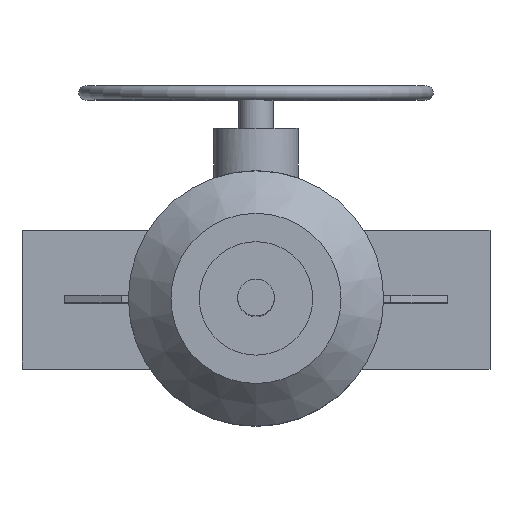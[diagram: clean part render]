
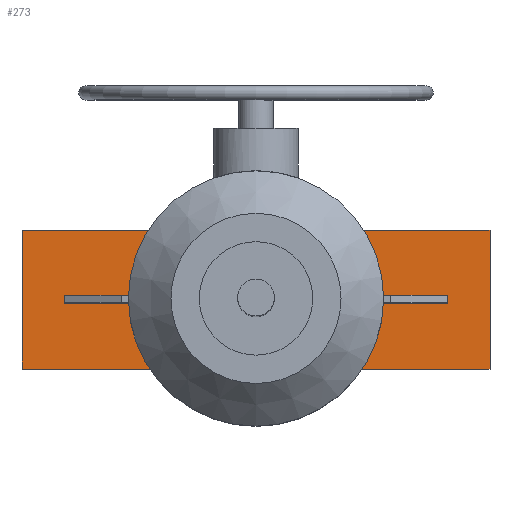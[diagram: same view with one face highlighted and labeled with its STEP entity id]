
A CAD part, top view. The second image highlights one B-rep face of the part: STEP entity #273.
In plain terms, the highlighted planar face has unit normal (0, 0, 1).
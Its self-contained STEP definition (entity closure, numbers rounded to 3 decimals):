
#273=ADVANCED_FACE('',(#1540,#1542),#1544,.T.);
#1540=FACE_BOUND('',#1541,.T.);
#1541=EDGE_LOOP('',(#2601,#2602,#2603,#2604,#2605,#2606,#2607,#2608));
#1542=FACE_BOUND('',#1543,.T.);
#1543=EDGE_LOOP('',(#2609,#2610,#2611,#2612,#2613,#2614,#2615,#2616));
#1544=PLANE('',#1545);
#1545=AXIS2_PLACEMENT_3D('',#1546,#1547,#1548);
#1546=CARTESIAN_POINT('',(0.,0.,280.));
#1547=DIRECTION('',(0.,0.,1.));
#1548=DIRECTION('',(1.,0.,0.));
#2601=ORIENTED_EDGE('',*,*,#3217,.F.);
#2602=ORIENTED_EDGE('',*,*,#3215,.T.);
#2603=ORIENTED_EDGE('',*,*,#3228,.T.);
#2604=ORIENTED_EDGE('',*,*,#3221,.T.);
#2605=ORIENTED_EDGE('',*,*,#3220,.F.);
#2606=ORIENTED_EDGE('',*,*,#3225,.T.);
#2607=ORIENTED_EDGE('',*,*,#3229,.T.);
#2608=ORIENTED_EDGE('',*,*,#3211,.T.);
#2609=ORIENTED_EDGE('',*,*,#3230,.F.);
#2610=ORIENTED_EDGE('',*,*,#3231,.F.);
#2611=ORIENTED_EDGE('',*,*,#3232,.F.);
#2612=ORIENTED_EDGE('',*,*,#3233,.F.);
#2613=ORIENTED_EDGE('',*,*,#3234,.F.);
#2614=ORIENTED_EDGE('',*,*,#3235,.F.);
#2615=ORIENTED_EDGE('',*,*,#3236,.F.);
#2616=ORIENTED_EDGE('',*,*,#3237,.F.);
#3211=EDGE_CURVE('',#3582,#3565,#3583,.T.);
#3215=EDGE_CURVE('',#3545,#3588,#3590,.T.);
#3217=EDGE_CURVE('',#3545,#3565,#3592,.T.);
#3220=EDGE_CURVE('',#3559,#3551,#3596,.T.);
#3221=EDGE_CURVE('',#3597,#3551,#3598,.T.);
#3225=EDGE_CURVE('',#3559,#3603,#3605,.T.);
#3228=EDGE_CURVE('',#3588,#3597,#3610,.T.);
#3229=EDGE_CURVE('',#3603,#3582,#3611,.T.);
#3230=EDGE_CURVE('',#3612,#3613,#3614,.T.);
#3231=EDGE_CURVE('',#3615,#3612,#3616,.F.);
#3232=EDGE_CURVE('',#3617,#3615,#3618,.F.);
#3233=EDGE_CURVE('',#3619,#3617,#3620,.F.);
#3234=EDGE_CURVE('',#3621,#3619,#3622,.T.);
#3235=EDGE_CURVE('',#3623,#3621,#3624,.T.);
#3236=EDGE_CURVE('',#3625,#3623,#3626,.F.);
#3237=EDGE_CURVE('',#3613,#3625,#3627,.T.);
#3545=VERTEX_POINT('',#4172);
#3551=VERTEX_POINT('',#4184);
#3559=VERTEX_POINT('',#4202);
#3565=VERTEX_POINT('',#4214);
#3582=VERTEX_POINT('',#4262);
#3583=LINE('',#4263,#4264);
#3588=VERTEX_POINT('',#4274);
#3590=LINE('',#4278,#4279);
#3592=LINE('',#4284,#4285);
#3596=LINE('',#4295,#4296);
#3597=VERTEX_POINT('',#4298);
#3598=LINE('',#4299,#4300);
#3603=VERTEX_POINT('',#4310);
#3605=LINE('',#4314,#4315);
#3610=LINE('',#4327,#4328);
#3611=LINE('',#4330,#4331);
#3612=VERTEX_POINT('',#4333);
#3613=VERTEX_POINT('',#4334);
#3614=LINE('',#4335,#4336);
#3615=VERTEX_POINT('',#4338);
#3616=LINE('',#4339,#4340);
#3617=VERTEX_POINT('',#4342);
#3618=CIRCLE('',#4343,13.);
#3619=VERTEX_POINT('',#4347);
#3620=LINE('',#4348,#4349);
#3621=VERTEX_POINT('',#4351);
#3622=LINE('',#4352,#4353);
#3623=VERTEX_POINT('',#4355);
#3624=LINE('',#4356,#4357);
#3625=VERTEX_POINT('',#4359);
#3626=CIRCLE('',#4360,13.);
#3627=LINE('',#4364,#4365);
#4172=CARTESIAN_POINT('',(70.,-49.,280.));
#4184=CARTESIAN_POINT('',(70.,49.,280.));
#4202=CARTESIAN_POINT('',(-70.,49.,280.));
#4214=CARTESIAN_POINT('',(-70.,-49.,280.));
#4262=CARTESIAN_POINT('',(-165.,-49.,280.));
#4263=CARTESIAN_POINT('',(-165.,-49.,280.));
#4264=VECTOR('',#4265,1.);
#4265=DIRECTION('',(1.,0.,0.));
#4274=CARTESIAN_POINT('',(165.,-49.,280.));
#4278=CARTESIAN_POINT('',(70.,-49.,280.));
#4279=VECTOR('',#4280,1.);
#4280=DIRECTION('',(1.,0.,0.));
#4284=CARTESIAN_POINT('',(70.,-49.,280.));
#4285=VECTOR('',#4286,1.);
#4286=DIRECTION('',(-1.,0.,0.));
#4295=CARTESIAN_POINT('',(-70.,49.,280.));
#4296=VECTOR('',#4297,1.);
#4297=DIRECTION('',(1.,0.,0.));
#4298=CARTESIAN_POINT('',(165.,49.,280.));
#4299=CARTESIAN_POINT('',(165.,49.,280.));
#4300=VECTOR('',#4301,1.);
#4301=DIRECTION('',(-1.,0.,0.));
#4310=CARTESIAN_POINT('',(-165.,49.,280.));
#4314=CARTESIAN_POINT('',(-70.,49.,280.));
#4315=VECTOR('',#4316,1.);
#4316=DIRECTION('',(-1.,0.,0.));
#4327=CARTESIAN_POINT('',(165.,-49.,280.));
#4328=VECTOR('',#4329,1.);
#4329=DIRECTION('',(0.,1.,0.));
#4330=CARTESIAN_POINT('',(-165.,49.,280.));
#4331=VECTOR('',#4332,1.);
#4332=DIRECTION('',(0.,-1.,0.));
#4333=CARTESIAN_POINT('',(-135.,2.5,280.));
#4334=CARTESIAN_POINT('',(-135.,-2.5,280.));
#4335=CARTESIAN_POINT('',(-135.,2.5,280.));
#4336=VECTOR('',#4337,1.);
#4337=DIRECTION('',(0.,-1.,0.));
#4338=CARTESIAN_POINT('',(-12.757,2.5,280.));
#4339=CARTESIAN_POINT('',(-135.,2.5,280.));
#4340=VECTOR('',#4341,1.);
#4341=DIRECTION('',(1.,0.,0.));
#4342=CARTESIAN_POINT('',(12.757,2.5,280.));
#4343=AXIS2_PLACEMENT_3D('',#4344,#4345,#4346);
#4344=CARTESIAN_POINT('',(0.,0.,280.));
#4345=DIRECTION('',(0.,0.,-1.));
#4346=DIRECTION('',(-0.981,0.192,0.));
#4347=CARTESIAN_POINT('',(135.,2.5,280.));
#4348=CARTESIAN_POINT('',(12.757,2.5,280.));
#4349=VECTOR('',#4350,1.);
#4350=DIRECTION('',(1.,0.,0.));
#4351=CARTESIAN_POINT('',(135.,-2.5,280.));
#4352=CARTESIAN_POINT('',(135.,-2.5,280.));
#4353=VECTOR('',#4354,1.);
#4354=DIRECTION('',(0.,1.,0.));
#4355=CARTESIAN_POINT('',(12.757,-2.5,280.));
#4356=CARTESIAN_POINT('',(12.757,-2.5,280.));
#4357=VECTOR('',#4358,1.);
#4358=DIRECTION('',(1.,0.,0.));
#4359=CARTESIAN_POINT('',(-12.757,-2.5,280.));
#4360=AXIS2_PLACEMENT_3D('',#4361,#4362,#4363);
#4361=CARTESIAN_POINT('',(0.,0.,280.));
#4362=DIRECTION('',(0.,0.,-1.));
#4363=DIRECTION('',(0.981,-0.192,0.));
#4364=CARTESIAN_POINT('',(-135.,-2.5,280.));
#4365=VECTOR('',#4366,1.);
#4366=DIRECTION('',(1.,0.,0.));
